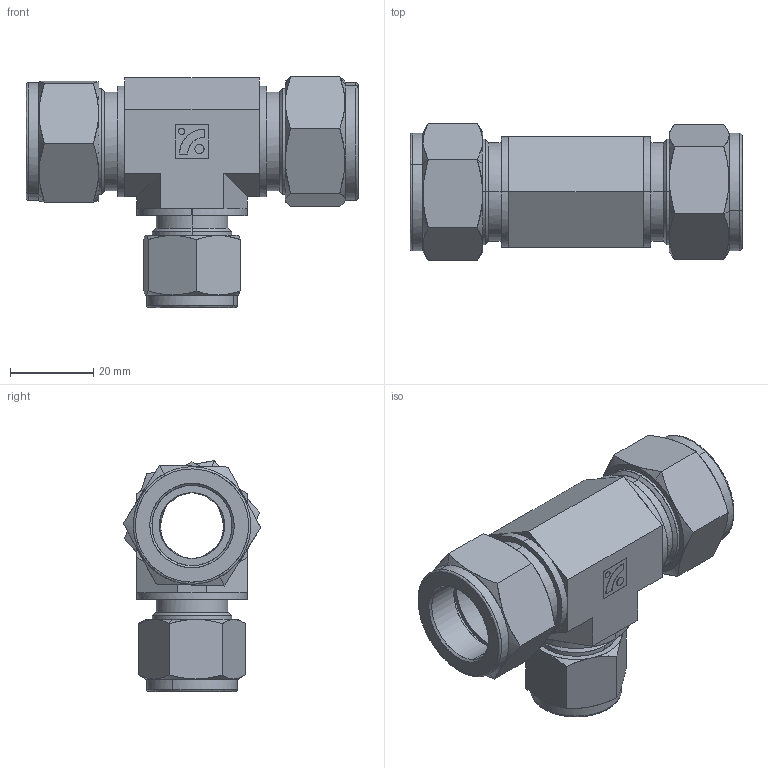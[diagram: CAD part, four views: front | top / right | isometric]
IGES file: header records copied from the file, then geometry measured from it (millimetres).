
Start section: Comment
Global section: file name: SRUT12-12-8.igs; native system:  By UGS Corp.; preprocessor: XPlus GENERIC/IGES 3.0; author: Author; organization: Title; date: 20100713.193905; units: millimetre
Bounding box: 79.74 x 32.98 x 55.49 mm (x, y, z)
Surface area: 21393 mm2 (no closed solid volume)
Topology: 0 solids, 0 shells, 205 faces, 888 edges, 888 vertices
Faces by surface type: bspline 205
